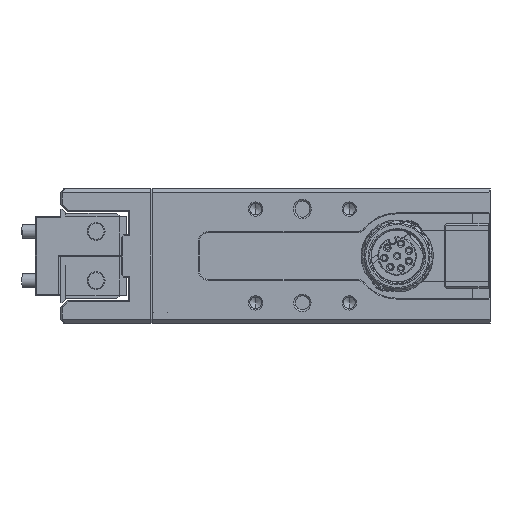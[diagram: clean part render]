
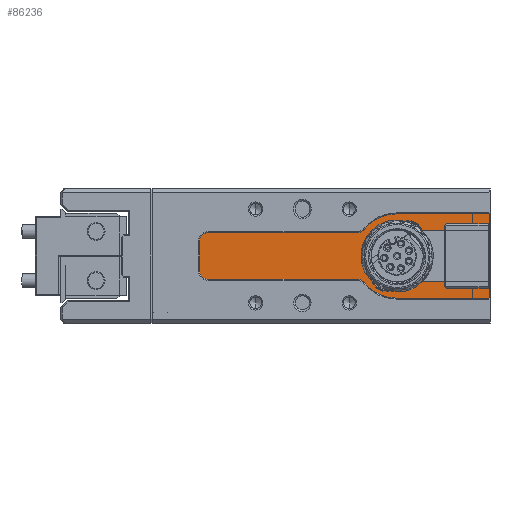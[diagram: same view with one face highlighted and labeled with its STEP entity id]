
A CAD part, left-side view. The second image highlights one B-rep face of the part: STEP entity #86236.
In plain terms, the highlighted planar face has unit normal (-1, 0, 0).
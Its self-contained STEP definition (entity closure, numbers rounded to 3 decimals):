
#19 = ORIENTED_EDGE ( 'NONE', *, *, #73368, .F. ) ;
#309 = ORIENTED_EDGE ( 'NONE', *, *, #44938, .F. ) ;
#661 = CARTESIAN_POINT ( 'NONE',  ( -50.87, 38.477, -5. ) ) ;
#2843 = FACE_OUTER_BOUND ( 'NONE', #58307, .T. ) ;
#3185 = VERTEX_POINT ( 'NONE', #47705 ) ;
#3726 = CARTESIAN_POINT ( 'NONE',  ( -50.87, -21.523, -5.4 ) ) ;
#4781 = DIRECTION ( 'NONE',  ( 0., 0., 1. ) ) ;
#5929 = VECTOR ( 'NONE', #60538, 1000. ) ;
#8084 = EDGE_CURVE ( 'NONE', #42205, #34322, #80567, .T. ) ;
#8534 = DIRECTION ( 'NONE',  ( 1., 0., 0. ) ) ;
#9531 = ORIENTED_EDGE ( 'NONE', *, *, #8084, .T. ) ;
#9666 = AXIS2_PLACEMENT_3D ( 'NONE', #45557, #37444, #58633 ) ;
#10606 = DIRECTION ( 'NONE',  ( 0., 0., -1. ) ) ;
#10611 = DIRECTION ( 'NONE',  ( 0., 0., 1. ) ) ;
#10636 = DIRECTION ( 'NONE',  ( 0., -1., 0. ) ) ;
#10918 = DIRECTION ( 'NONE',  ( 0., -1., 0. ) ) ;
#11402 = ORIENTED_EDGE ( 'NONE', *, *, #41754, .T. ) ;
#11498 = DIRECTION ( 'NONE',  ( -1., 0., 0. ) ) ;
#13126 = DIRECTION ( 'NONE',  ( 0., 0., 1. ) ) ;
#13249 = CARTESIAN_POINT ( 'NONE',  ( -50.87, 40.477, -3. ) ) ;
#13462 = LINE ( 'NONE', #40833, #36606 ) ;
#14864 = DIRECTION ( 'NONE',  ( 0., 0., -1. ) ) ;
#15811 = CARTESIAN_POINT ( 'NONE',  ( -50.87, -1.723, 0. ) ) ;
#17181 = LINE ( 'NONE', #30586, #82999 ) ;
#19655 = CARTESIAN_POINT ( 'NONE',  ( -50.87, -1.723, 9. ) ) ;
#20007 = VERTEX_POINT ( 'NONE', #58528 ) ;
#20479 = ORIENTED_EDGE ( 'NONE', *, *, #23480, .T. ) ;
#20765 = LINE ( 'NONE', #47295, #49928 ) ;
#22308 = EDGE_CURVE ( 'NONE', #38466, #56869, #17181, .T. ) ;
#23111 = VERTEX_POINT ( 'NONE', #85614 ) ;
#23480 = EDGE_CURVE ( 'NONE', #20007, #83411, #26909, .T. ) ;
#24371 = CARTESIAN_POINT ( 'NONE',  ( -50.87, 40.477, 3. ) ) ;
#25448 = DIRECTION ( 'NONE',  ( -1., 0., 0. ) ) ;
#25929 = AXIS2_PLACEMENT_3D ( 'NONE', #57344, #84296, #64521 ) ;
#26152 = CARTESIAN_POINT ( 'NONE',  ( -50.87, 5.219, 5.727 ) ) ;
#26355 = LINE ( 'NONE', #19655, #63890 ) ;
#26909 = CIRCLE ( 'NONE', #54256, 2. ) ;
#27693 = DIRECTION ( 'NONE',  ( 0., 1., 0. ) ) ;
#27760 = CARTESIAN_POINT ( 'NONE',  ( -50.87, -1.723, -5.4 ) ) ;
#30047 = VERTEX_POINT ( 'NONE', #76606 ) ;
#30552 = ORIENTED_EDGE ( 'NONE', *, *, #55770, .T. ) ;
#30573 = EDGE_CURVE ( 'NONE', #46348, #38238, #70297, .T. ) ;
#30586 = CARTESIAN_POINT ( 'NONE',  ( -50.87, 40.477, 5. ) ) ;
#30708 = DIRECTION ( 'NONE',  ( 0., 1., 0. ) ) ;
#31248 = DIRECTION ( 'NONE',  ( -1., 0., 0. ) ) ;
#31395 = CARTESIAN_POINT ( 'NONE',  ( -50.87, 6.762, 5. ) ) ;
#32720 = EDGE_CURVE ( 'NONE', #30047, #68008, #33044, .T. ) ;
#33044 = LINE ( 'NONE', #52393, #5929 ) ;
#34322 = VERTEX_POINT ( 'NONE', #661 ) ;
#34654 = VERTEX_POINT ( 'NONE', #51011 ) ;
#34704 = CIRCLE ( 'NONE', #54809, 5.4 ) ;
#35464 = CARTESIAN_POINT ( 'NONE',  ( -50.87, -21.523, 9. ) ) ;
#35514 = LINE ( 'NONE', #63450, #49670 ) ;
#36213 = DIRECTION ( 'NONE',  ( 1., 0., 0. ) ) ;
#36492 = AXIS2_PLACEMENT_3D ( 'NONE', #74525, #25448, #4781 ) ;
#36606 = VECTOR ( 'NONE', #10918, 1000. ) ;
#36989 = ORIENTED_EDGE ( 'NONE', *, *, #62120, .T. ) ;
#37444 = DIRECTION ( 'NONE',  ( 1., 0., 0. ) ) ;
#37566 = LINE ( 'NONE', #65053, #66510 ) ;
#38238 = VERTEX_POINT ( 'NONE', #3726 ) ;
#38466 = VERTEX_POINT ( 'NONE', #31395 ) ;
#40833 = CARTESIAN_POINT ( 'NONE',  ( -50.87, 40.477, -5. ) ) ;
#41754 = EDGE_CURVE ( 'NONE', #81069, #42205, #35514, .T. ) ;
#42205 = VERTEX_POINT ( 'NONE', #13249 ) ;
#42430 = ORIENTED_EDGE ( 'NONE', *, *, #48062, .T. ) ;
#44557 = DIRECTION ( 'NONE',  ( 0., 1., 0. ) ) ;
#44762 = CARTESIAN_POINT ( 'NONE',  ( -50.87, 6.762, -7. ) ) ;
#44938 = EDGE_CURVE ( 'NONE', #30047, #23111, #59527, .T. ) ;
#45557 = CARTESIAN_POINT ( 'NONE',  ( -50.87, -21.523, 0. ) ) ;
#46348 = VERTEX_POINT ( 'NONE', #27760 ) ;
#47295 = CARTESIAN_POINT ( 'NONE',  ( -50.87, -21.523, 9. ) ) ;
#47640 = ORIENTED_EDGE ( 'NONE', *, *, #32720, .T. ) ;
#47705 = CARTESIAN_POINT ( 'NONE',  ( -50.87, -1.723, 9. ) ) ;
#48062 = EDGE_CURVE ( 'NONE', #63259, #34654, #37566, .T. ) ;
#48159 = DIRECTION ( 'NONE',  ( 0., 0., -1. ) ) ;
#48981 = CARTESIAN_POINT ( 'NONE',  ( -50.87, 6.762, 7. ) ) ;
#49612 = ORIENTED_EDGE ( 'NONE', *, *, #52209, .T. ) ;
#49670 = VECTOR ( 'NONE', #48159, 1000. ) ;
#49928 = VECTOR ( 'NONE', #13126, 1000. ) ;
#51011 = CARTESIAN_POINT ( 'NONE',  ( -50.87, -21.523, -9. ) ) ;
#52209 = EDGE_CURVE ( 'NONE', #83411, #63259, #63840, .T. ) ;
#52393 = CARTESIAN_POINT ( 'NONE',  ( -50.87, -21.523, 9. ) ) ;
#52783 = EDGE_CURVE ( 'NONE', #34322, #20007, #13462, .T. ) ;
#54256 = AXIS2_PLACEMENT_3D ( 'NONE', #44762, #36213, #10606 ) ;
#54300 = ORIENTED_EDGE ( 'NONE', *, *, #57370, .T. ) ;
#54809 = AXIS2_PLACEMENT_3D ( 'NONE', #15811, #56293, #78680 ) ;
#55500 = ORIENTED_EDGE ( 'NONE', *, *, #22308, .T. ) ;
#55770 = EDGE_CURVE ( 'NONE', #34654, #38238, #20765, .T. ) ;
#56293 = DIRECTION ( 'NONE',  ( -1., 0., 0. ) ) ;
#56383 = CARTESIAN_POINT ( 'NONE',  ( -50.87, -1.723, -5.4 ) ) ;
#56869 = VERTEX_POINT ( 'NONE', #84036 ) ;
#57344 = CARTESIAN_POINT ( 'NONE',  ( -50.87, 38.477, -3. ) ) ;
#57370 = EDGE_CURVE ( 'NONE', #3185, #68804, #78031, .T. ) ;
#58264 = EDGE_CURVE ( 'NONE', #56869, #81069, #63860, .T. ) ;
#58307 = EDGE_LOOP ( 'NONE', ( #80645, #20479, #49612, #42430, #30552, #66048, #19, #309, #47640, #76209, #54300, #36989, #55500, #71681, #11402, #9531 ) ) ;
#58528 = CARTESIAN_POINT ( 'NONE',  ( -50.87, 6.762, -5. ) ) ;
#58633 = DIRECTION ( 'NONE',  ( 0., 0., -1. ) ) ;
#58776 = CIRCLE ( 'NONE', #61585, 2. ) ;
#59527 = LINE ( 'NONE', #79288, #66007 ) ;
#60538 = DIRECTION ( 'NONE',  ( 0., 0., 1. ) ) ;
#61585 = AXIS2_PLACEMENT_3D ( 'NONE', #48981, #8534, #14864 ) ;
#62120 = EDGE_CURVE ( 'NONE', #68804, #38466, #58776, .T. ) ;
#63259 = VERTEX_POINT ( 'NONE', #72058 ) ;
#63450 = CARTESIAN_POINT ( 'NONE',  ( -50.87, 40.477, 5. ) ) ;
#63840 = CIRCLE ( 'NONE', #36492, 9. ) ;
#63860 = CIRCLE ( 'NONE', #75370, 2. ) ;
#63890 = VECTOR ( 'NONE', #27693, 1000. ) ;
#64521 = DIRECTION ( 'NONE',  ( 0., 0., -1. ) ) ;
#64828 = EDGE_CURVE ( 'NONE', #68008, #3185, #26355, .T. ) ;
#65053 = CARTESIAN_POINT ( 'NONE',  ( -50.87, -1.723, -9. ) ) ;
#66007 = VECTOR ( 'NONE', #30708, 1000. ) ;
#66048 = ORIENTED_EDGE ( 'NONE', *, *, #30573, .F. ) ;
#66510 = VECTOR ( 'NONE', #10636, 1000. ) ;
#68008 = VERTEX_POINT ( 'NONE', #35464 ) ;
#68804 = VERTEX_POINT ( 'NONE', #26152 ) ;
#70297 = LINE ( 'NONE', #56383, #85950 ) ;
#71681 = ORIENTED_EDGE ( 'NONE', *, *, #58264, .T. ) ;
#71781 = CARTESIAN_POINT ( 'NONE',  ( -50.87, -1.723, 0. ) ) ;
#72058 = CARTESIAN_POINT ( 'NONE',  ( -50.87, -1.723, -9. ) ) ;
#73276 = CARTESIAN_POINT ( 'NONE',  ( -50.87, 5.219, -5.727 ) ) ;
#73368 = EDGE_CURVE ( 'NONE', #23111, #46348, #34704, .T. ) ;
#74525 = CARTESIAN_POINT ( 'NONE',  ( -50.87, -1.723, 0. ) ) ;
#75370 = AXIS2_PLACEMENT_3D ( 'NONE', #87053, #31248, #86172 ) ;
#76209 = ORIENTED_EDGE ( 'NONE', *, *, #64828, .T. ) ;
#76606 = CARTESIAN_POINT ( 'NONE',  ( -50.87, -21.523, 5.4 ) ) ;
#78031 = CIRCLE ( 'NONE', #88091, 9. ) ;
#78680 = DIRECTION ( 'NONE',  ( 0., 0., 1. ) ) ;
#79288 = CARTESIAN_POINT ( 'NONE',  ( -50.87, -1.723, 5.4 ) ) ;
#80567 = CIRCLE ( 'NONE', #25929, 2. ) ;
#80645 = ORIENTED_EDGE ( 'NONE', *, *, #52783, .T. ) ;
#81069 = VERTEX_POINT ( 'NONE', #24371 ) ;
#82999 = VECTOR ( 'NONE', #44557, 1000. ) ;
#83367 = DIRECTION ( 'NONE',  ( 0., -1., 0. ) ) ;
#83411 = VERTEX_POINT ( 'NONE', #73276 ) ;
#84036 = CARTESIAN_POINT ( 'NONE',  ( -50.87, 38.477, 5. ) ) ;
#84296 = DIRECTION ( 'NONE',  ( -1., 0., 0. ) ) ;
#85614 = CARTESIAN_POINT ( 'NONE',  ( -50.87, -1.723, 5.4 ) ) ;
#85950 = VECTOR ( 'NONE', #83367, 1000. ) ;
#86172 = DIRECTION ( 'NONE',  ( 0., 0., -1. ) ) ;
#86236 = ADVANCED_FACE ( 'NONE', ( #2843 ), #86498, .F. ) ;
#86498 = PLANE ( 'NONE',  #9666 ) ;
#87053 = CARTESIAN_POINT ( 'NONE',  ( -50.87, 38.477, 3. ) ) ;
#88091 = AXIS2_PLACEMENT_3D ( 'NONE', #71781, #11498, #10611 ) ;
